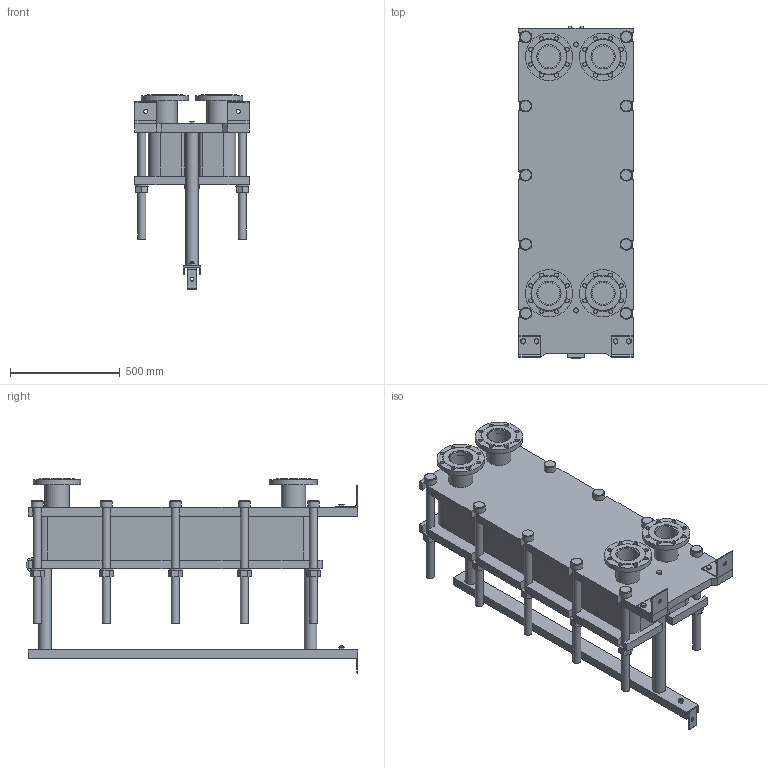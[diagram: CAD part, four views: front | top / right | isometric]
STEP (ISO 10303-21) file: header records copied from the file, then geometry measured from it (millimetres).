
FILE_DESCRIPTION(/* description */ (''),/* implementation_level */ '2;1');
FILE_NAME(/* name */ 'C:\Users\zhuro\Desktop\ENCO\TO\ЭН-04\ЭН-0,5-04-58-1.stp',/* time_stamp */ '2022-06-06T10:49:22+03:00',/* author */ ('zhuro'),/* organization */ (''),/* preprocessor_version */ 'ST-DEVELOPER v18.1',/* originating_system */ 'Autodesk Inventor 2022',/* authorisation */ '');
FILE_SCHEMA (('AUTOMOTIVE_DESIGN { 1 0 10303 214 3 1 1 }'));
Length unit declared in the file: millimetre
Products named in the file (1): ЭН-0,5-04-58-1
Bounding box: 520 x 1510 x 884 mm (x, y, z)
Volume: 168946111.1 mm3; surface area: 7431678 mm2
Topology: 45 solids, 45 shells, 668 faces, 1611 edges, 1048 vertices
Faces by surface type: plane 457, cylinder 166, cone 39, torus 6
Full cylindrical faces by diameter (mm): 8 x4, 10 x2, 16 x8, 18 x35, 36 x25, 40 x2, 42 x1, 45 x4, 54 x10, 57 x2, 60 x10, 68 x2, 100 x4, 110 x8, 215 x4
Entity records: 23607 total; most frequent: CARTESIAN_POINT 7348, DIRECTION 3371, ORIENTED_EDGE 3142, EDGE_CURVE 1571, AXIS2_PLACEMENT_3D 1199, VERTEX_POINT 1044, LINE 973, VECTOR 973
